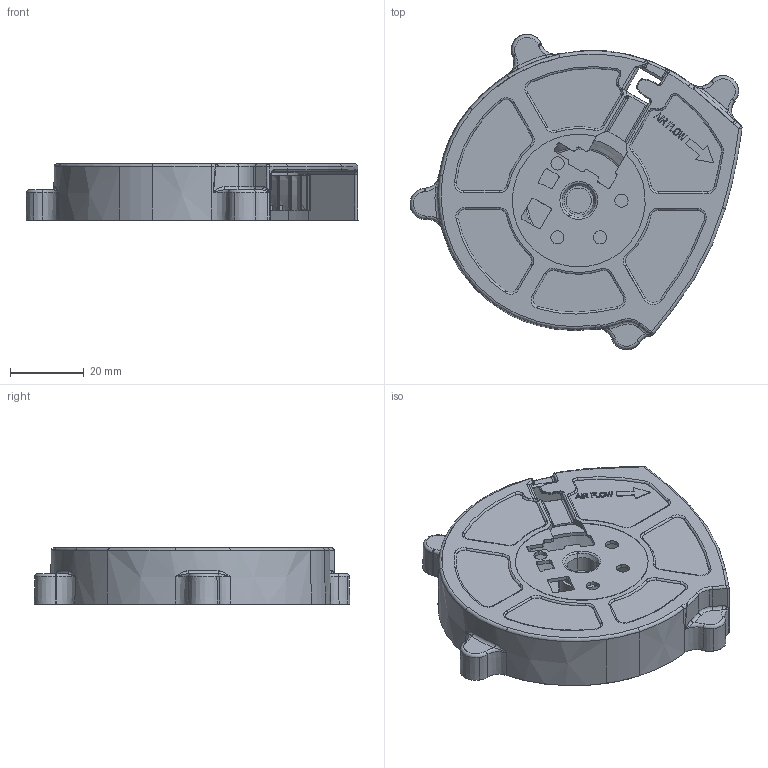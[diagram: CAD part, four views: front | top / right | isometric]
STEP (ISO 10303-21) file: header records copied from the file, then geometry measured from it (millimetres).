
FILE_DESCRIPTION(('STEP AP214'),'1');
FILE_NAME('B128015.stp','2026-05-22T09:59:44',('Lutz L. Zamecki'),('HSM Zamecki GmbH'),'Spatial InterOp 3D',' ',' ');
FILE_SCHEMA(('automotive_design'));
Length unit declared in the file: inch
Products named in the file (531): W082_ASM|8015_K#8015_K;8015_K; W082_ASM|8015_Y#8015_Y;8015_Y
Bounding box: 89.97 x 85.52 x 15.2 mm (x, y, z)
Volume: 7338.4 mm3; surface area: 30674 mm2
Topology: 1 solids, 571 shells, 1007 faces, 4416 edges, 3907 vertices
Faces by surface type: plane 340, cylinder 339, torus 117, extrusion 117, cone 60, bspline 28, sphere 6
Entity records: 83274 total; most frequent: CARTESIAN_POINT 19886, DIRECTION 8107, ORIENTED_EDGE 5839, EDGE_CURVE 4411, VERTEX_POINT 3907, AXIS2_PLACEMENT_3D 3021, STYLED_ITEM 2966, PRESENTATION_STYLE_ASSIGNMENT 2966
